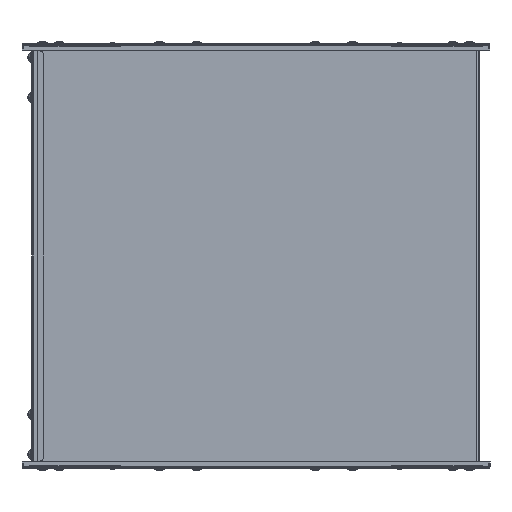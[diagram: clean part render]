
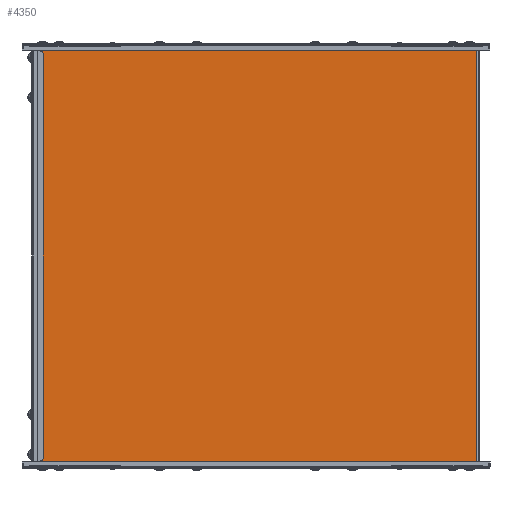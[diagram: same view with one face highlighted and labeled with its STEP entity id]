
A CAD part, left-side view. The second image highlights one B-rep face of the part: STEP entity #4350.
In plain terms, the highlighted planar face has unit normal (-1, 0, 0).
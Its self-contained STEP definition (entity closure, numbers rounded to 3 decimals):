
#1054 = DIRECTION ( 'NONE',  ( 1., 0., 0. ) ) ;
#1322 = PLANE ( 'NONE',  #12596 ) ;
#1939 = DIRECTION ( 'NONE',  ( 0., -1., 0. ) ) ;
#1951 = CARTESIAN_POINT ( 'NONE',  ( -299.8, 0., 0. ) ) ;
#3111 = FACE_OUTER_BOUND ( 'NONE', #21815, .T. ) ;
#4350 = ADVANCED_FACE ( 'NONE', ( #3111 ), #1322, .F. ) ;
#6590 = CARTESIAN_POINT ( 'NONE',  ( -299.8, 373., 177.3 ) ) ;
#6735 = CARTESIAN_POINT ( 'NONE',  ( -299.8, 1.2, 177.3 ) ) ;
#6867 = CARTESIAN_POINT ( 'NONE',  ( -299.8, 1.2, -177.3 ) ) ;
#6998 = CARTESIAN_POINT ( 'NONE',  ( -299.8, 373., -177.3 ) ) ;
#7859 = VECTOR ( 'NONE', #22574, 1000. ) ;
#7861 = VECTOR ( 'NONE', #22626, 1000. ) ;
#7863 = LINE ( 'NONE', #22620, #7861 ) ;
#7865 = LINE ( 'NONE', #22628, #7859 ) ;
#9566 = VECTOR ( 'NONE', #22348, 1000. ) ;
#9568 = LINE ( 'NONE', #22372, #9566 ) ;
#10815 = ORIENTED_EDGE ( 'NONE', *, *, #13988, .F. ) ;
#10928 = ORIENTED_EDGE ( 'NONE', *, *, #14351, .F. ) ;
#11035 = ORIENTED_EDGE ( 'NONE', *, *, #13987, .F. ) ;
#11113 = ORIENTED_EDGE ( 'NONE', *, *, #13924, .F. ) ;
#12596 = AXIS2_PLACEMENT_3D ( 'NONE', #1951, #1054, #1939 ) ;
#13924 = EDGE_CURVE ( 'NONE', #15476, #15303, #9568, .T. ) ;
#13987 = EDGE_CURVE ( 'NONE', #15303, #15250, #7863, .T. ) ;
#13988 = EDGE_CURVE ( 'NONE', #15621, #15476, #7865, .T. ) ;
#14351 = EDGE_CURVE ( 'NONE', #15250, #15621, #24869, .T. ) ;
#15250 = VERTEX_POINT ( 'NONE', #6998 ) ;
#15303 = VERTEX_POINT ( 'NONE', #6867 ) ;
#15476 = VERTEX_POINT ( 'NONE', #6735 ) ;
#15621 = VERTEX_POINT ( 'NONE', #6590 ) ;
#19478 = DIRECTION ( 'NONE',  ( 0., 0., 1. ) ) ;
#19479 = CARTESIAN_POINT ( 'NONE',  ( -299.8, 373., -177.3 ) ) ;
#21815 = EDGE_LOOP ( 'NONE', ( #11113, #10815, #10928, #11035 ) ) ;
#22348 = DIRECTION ( 'NONE',  ( 0., 0., -1. ) ) ;
#22372 = CARTESIAN_POINT ( 'NONE',  ( -299.8, 1.2, 0. ) ) ;
#22574 = DIRECTION ( 'NONE',  ( 0., -1., 0. ) ) ;
#22620 = CARTESIAN_POINT ( 'NONE',  ( -299.8, 0., -177.3 ) ) ;
#22626 = DIRECTION ( 'NONE',  ( 0., 1., 0. ) ) ;
#22628 = CARTESIAN_POINT ( 'NONE',  ( -299.8, 373., 177.3 ) ) ;
#24869 = LINE ( 'NONE', #19479, #24924 ) ;
#24924 = VECTOR ( 'NONE', #19478, 1000. ) ;
